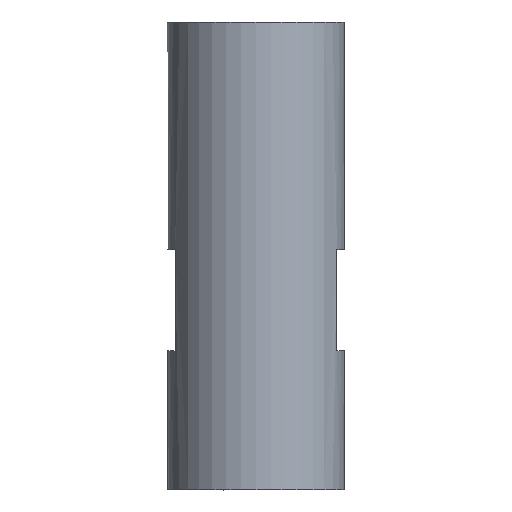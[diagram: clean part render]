
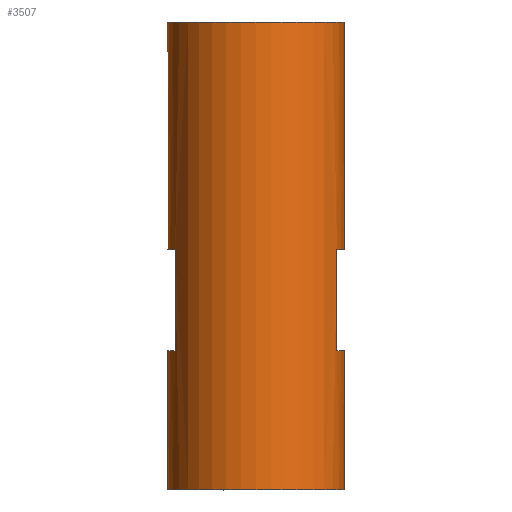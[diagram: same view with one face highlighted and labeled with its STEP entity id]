
A CAD part, front view. The second image highlights one B-rep face of the part: STEP entity #3507.
In plain terms, the highlighted cylindrical face has radius 35 mm (diameter 70 mm), a full revolution.
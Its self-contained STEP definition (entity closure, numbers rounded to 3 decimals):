
#2283=FACE_BOUND('',#5593,.T.);
#2284=FACE_BOUND('',#5594,.T.);
#2285=FACE_BOUND('',#5595,.T.);
#2286=FACE_BOUND('',#5596,.T.);
#2287=FACE_BOUND('',#5597,.T.);
#2432=CYLINDRICAL_SURFACE('',#17444,35.);
#2786=CIRCLE('',#17437,35.);
#2787=CIRCLE('',#17439,35.);
#2788=CIRCLE('',#17440,35.);
#2789=CIRCLE('',#17441,35.);
#2790=CIRCLE('',#17442,35.);
#2791=CIRCLE('',#17443,35.);
#3507=ADVANCED_FACE('',(#2283,#2284,#2285,#2286,#2287),#2432,.T.);
#5593=EDGE_LOOP('',(#9985));
#5594=EDGE_LOOP('',(#9986));
#5595=EDGE_LOOP('',(#9987,#9988,#9989,#9990));
#5596=EDGE_LOOP('',(#9991,#9992,#9993,#9994));
#5597=EDGE_LOOP('',(#9995,#9996,#9997,#9998));
#6388=B_SPLINE_CURVE_WITH_KNOTS('',3,(#34336,#34337,#34338,#34339,#34340,
#34341,#34342,#34343,#34344,#34345),.UNSPECIFIED.,.F.,.F.,(4,2,2,2,4),(0.,
0.25,0.5,0.75,1.),.UNSPECIFIED.);
#6440=B_SPLINE_CURVE_WITH_KNOTS('',3,(#37225,#37226,#37227,#37228,#37229,
#37230,#37231,#37232,#37233,#37234),.UNSPECIFIED.,.F.,.F.,(4,2,2,2,4),(0.,
0.25,0.5,0.75,1.),.UNSPECIFIED.);
#9985=ORIENTED_EDGE('',*,*,#13841,.T.);
#9986=ORIENTED_EDGE('',*,*,#13842,.T.);
#9987=ORIENTED_EDGE('',*,*,#13843,.F.);
#9988=ORIENTED_EDGE('',*,*,#13844,.T.);
#9989=ORIENTED_EDGE('',*,*,#13845,.F.);
#9990=ORIENTED_EDGE('',*,*,#13846,.T.);
#9991=ORIENTED_EDGE('',*,*,#13847,.T.);
#9992=ORIENTED_EDGE('',*,*,#13848,.F.);
#9993=ORIENTED_EDGE('',*,*,#13849,.T.);
#9994=ORIENTED_EDGE('',*,*,#13850,.F.);
#9995=ORIENTED_EDGE('',*,*,#13778,.F.);
#9996=ORIENTED_EDGE('',*,*,#13851,.F.);
#9997=ORIENTED_EDGE('',*,*,#13852,.F.);
#9998=ORIENTED_EDGE('',*,*,#13853,.F.);
#11802=VERTEX_POINT('',#34346);
#11803=VERTEX_POINT('',#34347);
#11845=VERTEX_POINT('',#37203);
#11846=VERTEX_POINT('',#37206);
#11847=VERTEX_POINT('',#37208);
#11848=VERTEX_POINT('',#37209);
#11849=VERTEX_POINT('',#37211);
#11850=VERTEX_POINT('',#37213);
#11851=VERTEX_POINT('',#37216);
#11852=VERTEX_POINT('',#37217);
#11853=VERTEX_POINT('',#37219);
#11854=VERTEX_POINT('',#37221);
#11855=VERTEX_POINT('',#37224);
#11856=VERTEX_POINT('',#37235);
#13778=EDGE_CURVE('',#11802,#11803,#6388,.T.);
#13841=EDGE_CURVE('',#11845,#11845,#2786,.T.);
#13842=EDGE_CURVE('',#11846,#11846,#2787,.T.);
#13843=EDGE_CURVE('',#11847,#11848,#14977,.T.);
#13844=EDGE_CURVE('',#11847,#11849,#2788,.T.);
#13845=EDGE_CURVE('',#11850,#11849,#14978,.T.);
#13846=EDGE_CURVE('',#11850,#11848,#2789,.T.);
#13847=EDGE_CURVE('',#11851,#11852,#2790,.T.);
#13848=EDGE_CURVE('',#11853,#11852,#14979,.T.);
#13849=EDGE_CURVE('',#11853,#11854,#2791,.T.);
#13850=EDGE_CURVE('',#11851,#11854,#14980,.T.);
#13851=EDGE_CURVE('',#11855,#11802,#14981,.T.);
#13852=EDGE_CURVE('',#11856,#11855,#6440,.T.);
#13853=EDGE_CURVE('',#11803,#11856,#14982,.T.);
#14977=LINE('',#37207,#16239);
#14978=LINE('',#37212,#16240);
#14979=LINE('',#37218,#16241);
#14980=LINE('',#37222,#16242);
#14981=LINE('',#37223,#16243);
#14982=LINE('',#37236,#16244);
#16239=VECTOR('',#20296,1.);
#16240=VECTOR('',#20299,1.);
#16241=VECTOR('',#20304,1.);
#16242=VECTOR('',#20307,1.);
#16243=VECTOR('',#20308,1.);
#16244=VECTOR('',#20309,1.);
#17437=AXIS2_PLACEMENT_3D('',#37202,#20290,#20291);
#17439=AXIS2_PLACEMENT_3D('',#37205,#20294,#20295);
#17440=AXIS2_PLACEMENT_3D('',#37210,#20297,#20298);
#17441=AXIS2_PLACEMENT_3D('',#37214,#20300,#20301);
#17442=AXIS2_PLACEMENT_3D('',#37215,#20302,#20303);
#17443=AXIS2_PLACEMENT_3D('',#37220,#20305,#20306);
#17444=AXIS2_PLACEMENT_3D('',#37237,#20310,#20311);
#20290=DIRECTION('',(0.,0.,1.));
#20291=DIRECTION('',(1.,0.,0.));
#20294=DIRECTION('',(0.,0.,-1.));
#20295=DIRECTION('',(1.,0.,0.));
#20296=DIRECTION('',(0.,0.,-1.));
#20297=DIRECTION('',(0.,0.,1.));
#20298=DIRECTION('',(-1.,0.,0.));
#20299=DIRECTION('',(0.,0.,1.));
#20300=DIRECTION('',(0.,0.,-1.));
#20301=DIRECTION('',(-0.914,-0.405,0.));
#20302=DIRECTION('',(0.,0.,1.));
#20303=DIRECTION('',(0.914,-0.405,0.));
#20304=DIRECTION('',(0.,0.,1.));
#20305=DIRECTION('',(0.,0.,-1.));
#20306=DIRECTION('',(1.,0.,0.));
#20307=DIRECTION('',(0.,0.,-1.));
#20308=DIRECTION('',(0.,0.,-1.));
#20309=DIRECTION('',(0.,0.,1.));
#20310=DIRECTION('',(0.,0.,-1.));
#20311=DIRECTION('',(-1.,0.,0.));
#34336=CARTESIAN_POINT('',(14.162,15.5,132.741));
#34337=CARTESIAN_POINT('',(12.555,16.212,130.52));
#34338=CARTESIAN_POINT('',(10.46,16.988,128.718));
#34339=CARTESIAN_POINT('',(5.607,18.135,126.204));
#34340=CARTESIAN_POINT('',(2.816,18.498,125.505));
#34341=CARTESIAN_POINT('',(-2.787,18.502,125.495));
#34342=CARTESIAN_POINT('',(-5.606,18.142,126.191));
#34343=CARTESIAN_POINT('',(-10.485,16.991,128.711));
#34344=CARTESIAN_POINT('',(-12.585,16.212,130.519));
#34345=CARTESIAN_POINT('',(-14.193,15.5,132.741));
#34346=CARTESIAN_POINT('',(14.162,15.5,132.741));
#34347=CARTESIAN_POINT('',(-14.193,15.5,132.741));
#37202=CARTESIAN_POINT('',(-0.016,-16.5,68.));
#37203=CARTESIAN_POINT('',(34.984,-16.5,68.));
#37205=CARTESIAN_POINT('',(-0.016,-16.5,253.));
#37206=CARTESIAN_POINT('',(34.984,-16.5,253.));
#37207=CARTESIAN_POINT('',(-32.016,-2.323,163.));
#37208=CARTESIAN_POINT('',(-32.016,-2.323,163.));
#37209=CARTESIAN_POINT('',(-32.016,-2.323,123.));
#37210=CARTESIAN_POINT('',(-0.016,-16.5,163.));
#37211=CARTESIAN_POINT('',(-32.016,-30.677,163.));
#37212=CARTESIAN_POINT('',(-32.016,-30.677,123.));
#37213=CARTESIAN_POINT('',(-32.016,-30.677,123.));
#37214=CARTESIAN_POINT('',(-0.016,-16.5,123.));
#37215=CARTESIAN_POINT('',(-0.016,-16.5,163.));
#37216=CARTESIAN_POINT('',(31.984,-30.677,163.));
#37217=CARTESIAN_POINT('',(31.984,-2.323,163.));
#37218=CARTESIAN_POINT('',(31.984,-2.323,123.));
#37219=CARTESIAN_POINT('',(31.984,-2.323,123.));
#37220=CARTESIAN_POINT('',(-0.016,-16.5,123.));
#37221=CARTESIAN_POINT('',(31.984,-30.677,123.));
#37222=CARTESIAN_POINT('',(31.984,-30.677,163.));
#37223=CARTESIAN_POINT('',(14.162,15.5,153.259));
#37224=CARTESIAN_POINT('',(14.162,15.5,153.259));
#37225=CARTESIAN_POINT('',(-14.193,15.5,153.259));
#37226=CARTESIAN_POINT('',(-12.586,16.212,155.48));
#37227=CARTESIAN_POINT('',(-10.491,16.988,157.282));
#37228=CARTESIAN_POINT('',(-5.639,18.135,159.796));
#37229=CARTESIAN_POINT('',(-2.848,18.498,160.495));
#37230=CARTESIAN_POINT('',(2.756,18.502,160.505));
#37231=CARTESIAN_POINT('',(5.574,18.142,159.809));
#37232=CARTESIAN_POINT('',(10.454,16.991,157.289));
#37233=CARTESIAN_POINT('',(12.554,16.212,155.481));
#37234=CARTESIAN_POINT('',(14.162,15.5,153.259));
#37235=CARTESIAN_POINT('',(-14.193,15.5,153.259));
#37236=CARTESIAN_POINT('',(-14.193,15.5,132.741));
#37237=CARTESIAN_POINT('',(-0.016,-16.5,262.25));
